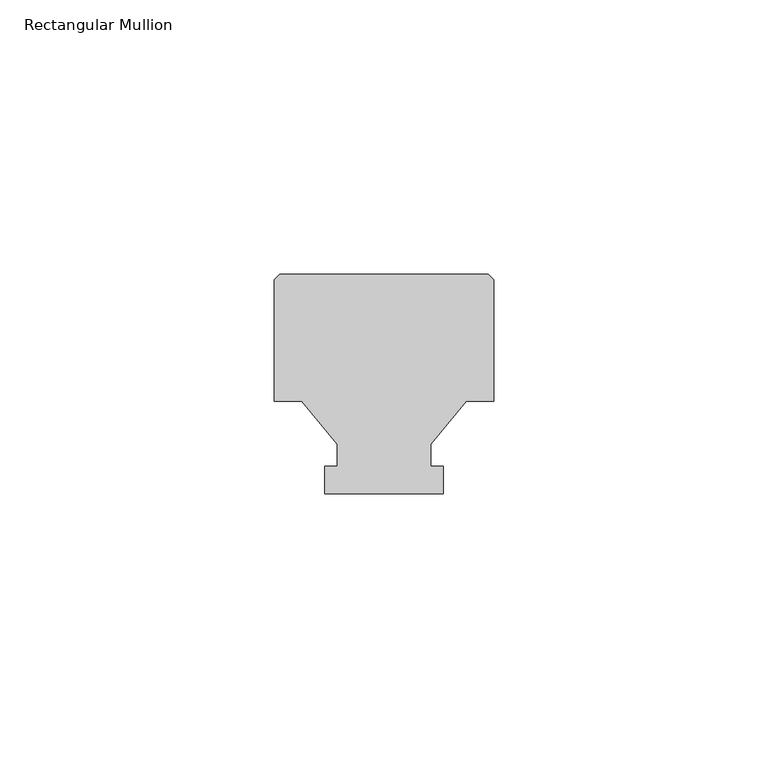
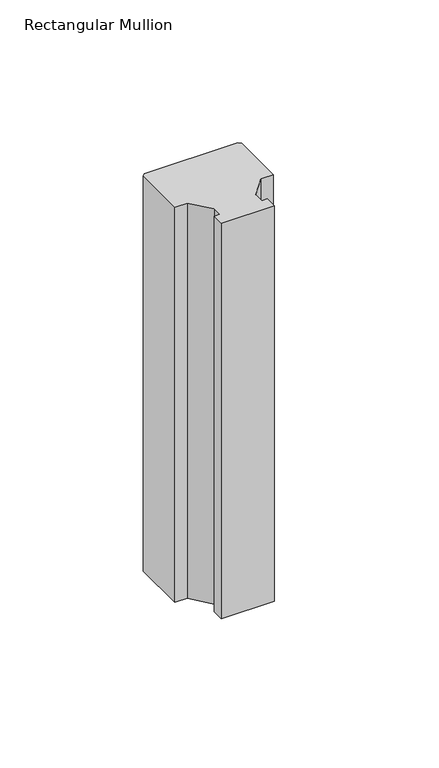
"""IFC4 building model written with IfcOpenShell, lengths in millimetres: member geometry, Rectangular Mullion : Batten_Timber_Modinex_Austratus_Grid_Fin_40x40_Ironbark."""

from ifc_helpers import new_model, si_unit, frame, origin, place, context, project, spatial, polyline, outline, extrude, source, transform, mapped, element, save


def rectangular_mullion_b7d7cfa5(model_context):
    return source(origin(), model_context, "Body", "SweptSolid", [
        extrude(outline(polyline([(-40.0, 16.8079815), (-40.0, 39.0), (-39.0, 40.0), (-1.0, 40.0), (0.0, 39.0), (0.0, 16.8079815), (-5.0, 16.8079815), (-11.5, 9.0), (-11.5, 5.0), (-9.187805, 5.0), (-9.187805, 0.0), (-30.812195, 0.0), (-30.812195, 5.0), (-28.5, 5.0), (-28.5, 9.0), (-35.0, 16.8079815), (-40.0, 16.8079815)])), frame((0.0, 0.0, -170.0), z_axis=(0.0, 0.0, 1.0), x_axis=(1.0, 0.0, 0.0)), (0.0, 0.0, 1.0), 170.0),
    ])


if __name__ == "__main__":
    model = new_model("IFC4")
    model_context = context("Model", 3, world=origin())
    ifc_project = project(units=[si_unit("LENGTHUNIT", "METRE", prefix="MILLI")], contexts=[model_context])
    site = spatial("IfcSite", under=ifc_project)
    building = spatial("IfcBuilding", under=site)
    placement = place(None, origin())
    rectangular_mullion_shape = rectangular_mullion_b7d7cfa5(model_context)
    element("IfcMember", 1, ObjectType="Rectangular Mullion : Batten_Timber_Modinex_Austratus_Grid_Fin_40x40_Ironbark", at=placement, inside=building, context=model_context, shape_type="MappedRepresentation", body=[
        mapped(rectangular_mullion_shape, transform((0.0, 0.0, 0.0), x_axis=(1.0, 0.0, 0.0), y_axis=(0.0, 1.0, 0.0), z_axis=(0.0, 0.0, 1.0))),
    ])
    save(model, "model.ifc")
